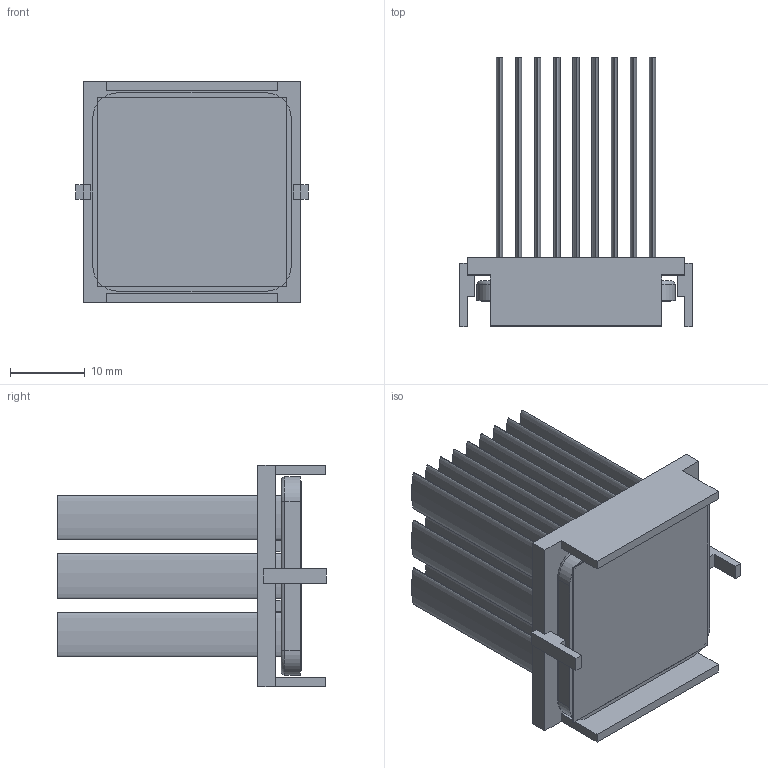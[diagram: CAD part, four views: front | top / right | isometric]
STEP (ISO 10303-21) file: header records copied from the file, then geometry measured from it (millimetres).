
FILE_DESCRIPTION (( 'STEP AP214' ), '1' );
FILE_NAME ('INM27001-33W_2.6+Y.STEP', '2023-02-17T18:35:59', ( '' ), ( '' ), 'SwSTEP 2.0', 'SolidWorks 2020', '' );
FILE_SCHEMA (( 'AUTOMOTIVE_DESIGN' ));
Length unit declared in the file: inch
Products named in the file (1): INM27001-33W_2.6+Y
Bounding box: 31.2 x 36.1 x 29.7 mm (x, y, z)
Volume: 6495.2 mm3; surface area: 15037.6 mm2
Topology: 3 solids, 3 shells, 163 faces, 382 edges, 252 vertices
Faces by surface type: plane 97, bspline 54, cylinder 8, torus 4
Entity records: 6919 total; most frequent: CARTESIAN_POINT 1500, ORIENTED_EDGE 764, DIRECTION 514, EDGE_CURVE 382, VECTOR 254, LINE 254, VERTEX_POINT 252, EDGE_LOOP 192
